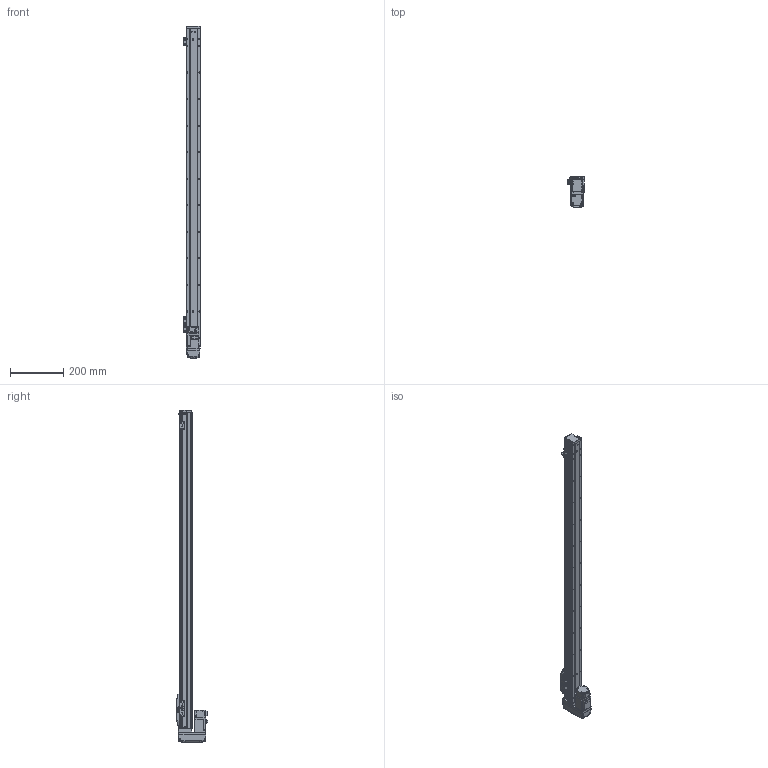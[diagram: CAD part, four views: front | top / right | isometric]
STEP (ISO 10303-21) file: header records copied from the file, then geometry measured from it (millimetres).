
FILE_DESCRIPTION (( 'STEP AP203' ), '1' );
FILE_NAME ('GTH5-1050-BM-M10-C4.step', '2023-08-28T00:50:26', ( '微软用户' ), ( '微软中国' ), 'SwSTEP 2.0', 'SolidWorks 2020', '' );
FILE_SCHEMA (( 'CONFIG_CONTROL_DESIGN' ));
Length unit declared in the file: millimetre
Products named in the file (19): GBT 70.1-M2.5×6; GTH50-003; GTH50-028; GTH50-006; GTH50-013; GTH50-022-1; GTH50-004; GTH50-023; HG-KR13; GBT 70.3-M3℅6; GBT 70.1-M3℅6; GTH50-027-1_BTHA50-027-2; BTH-M3X5X6; GBT96.1-2002 3×0.8; GTH50-026; GTH50-001_1050; GTH50-024; GTH5-1050-BM-M10-C4; GBT 70.1-M4×16
Assembly tree (57 placements, depth 2):
  GTH5-1050-BM-M10-C4
    GTH50-006
    GTH50-004
    GBT 70.3-M3℅6  x4
    BTH-M3X5X6  x8
    GTH50-001_1050
    GBT 70.1-M4×16  x8
    GTH50-003
    GTH50-013
    GTH50-023  x3
    GBT 70.1-M3℅6  x12
    GBT96.1-2002 3×0.8  x6
    GTH50-024  x3
    GBT 70.1-M2.5×6  x2
    GTH50-028  x2
    GTH50-022-1
    HG-KR13
    GTH50-027-1_BTHA50-027-2
    GTH50-026
Bounding box: 63.8 x 118.9 x 1250 mm (x, y, z)
Volume: 2736730.3 mm3; surface area: 414206.3 mm2
Topology: 59 solids, 59 shells, 2180 faces, 5076 edges, 3116 vertices
Faces by surface type: plane 1142, cylinder 609, cone 219, torus 162, bspline 40, sphere 8
Entity records: 40900 total; most frequent: CARTESIAN_POINT 8067, DIRECTION 6325, ORIENTED_EDGE 6066, EDGE_CURVE 3033, AXIS2_PLACEMENT_3D 2212, VERTEX_POINT 1918, LINE 1901, VECTOR 1901
